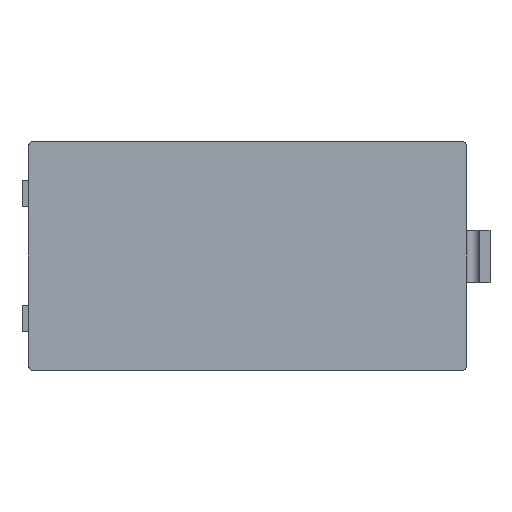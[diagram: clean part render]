
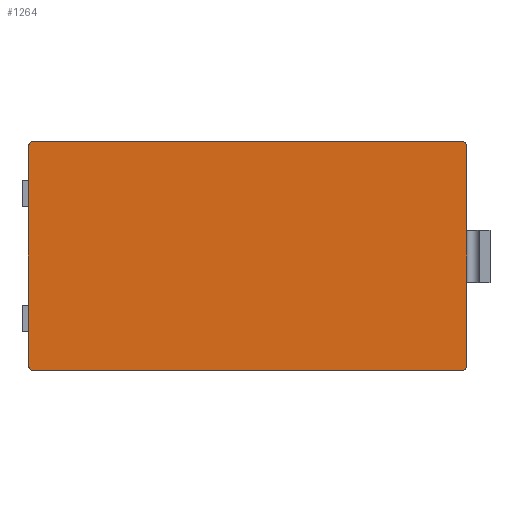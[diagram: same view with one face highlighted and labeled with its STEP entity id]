
A CAD part, front view. The second image highlights one B-rep face of the part: STEP entity #1264.
In plain terms, the highlighted planar face has unit normal (0, -1, 0).
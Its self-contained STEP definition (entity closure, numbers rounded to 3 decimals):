
#4 = AXIS2_PLACEMENT_3D ( 'NONE', #1541, #664, #1701 ) ;
#22 = EDGE_CURVE ( 'NONE', #815, #1073, #409, .T. ) ;
#127 = LINE ( 'NONE', #1207, #2135 ) ;
#160 = DIRECTION ( 'NONE',  ( 0., 0., -1. ) ) ;
#176 = VECTOR ( 'NONE', #2197, 1000. ) ;
#249 = EDGE_CURVE ( 'NONE', #1516, #1654, #1413, .T. ) ;
#316 = CARTESIAN_POINT ( 'NONE',  ( 1., 0., 0. ) ) ;
#336 = ORIENTED_EDGE ( 'NONE', *, *, #2136, .F. ) ;
#364 = DIRECTION ( 'NONE',  ( 0., -1., 0. ) ) ;
#370 = CARTESIAN_POINT ( 'NONE',  ( 0., 0., -1. ) ) ;
#409 = LINE ( 'NONE', #2014, #176 ) ;
#415 = CIRCLE ( 'NONE', #4, 1. ) ;
#427 = VERTEX_POINT ( 'NONE', #1965 ) ;
#432 = CARTESIAN_POINT ( 'NONE',  ( 82.5, 0., 0. ) ) ;
#449 = DIRECTION ( 'NONE',  ( 1., 0., 0. ) ) ;
#538 = CARTESIAN_POINT ( 'NONE',  ( 82.5, 0., -43.6 ) ) ;
#559 = ORIENTED_EDGE ( 'NONE', *, *, #22, .F. ) ;
#575 = EDGE_CURVE ( 'NONE', #427, #1516, #1399, .T. ) ;
#628 = CARTESIAN_POINT ( 'NONE',  ( 83.5, 0., -42.6 ) ) ;
#664 = DIRECTION ( 'NONE',  ( 0., 1., 0. ) ) ;
#679 = EDGE_CURVE ( 'NONE', #1654, #1102, #127, .T. ) ;
#717 = DIRECTION ( 'NONE',  ( 0., 0., 1. ) ) ;
#815 = VERTEX_POINT ( 'NONE', #538 ) ;
#867 = VERTEX_POINT ( 'NONE', #1574 ) ;
#875 = PLANE ( 'NONE',  #2162 ) ;
#940 = CARTESIAN_POINT ( 'NONE',  ( 1., 0., -42.6 ) ) ;
#949 = FACE_OUTER_BOUND ( 'NONE', #1658, .T. ) ;
#952 = AXIS2_PLACEMENT_3D ( 'NONE', #2110, #1567, #1744 ) ;
#1043 = CARTESIAN_POINT ( 'NONE',  ( 82.5, 0., -42.6 ) ) ;
#1045 = ORIENTED_EDGE ( 'NONE', *, *, #2256, .F. ) ;
#1049 = AXIS2_PLACEMENT_3D ( 'NONE', #940, #1625, #1805 ) ;
#1073 = VERTEX_POINT ( 'NONE', #1466 ) ;
#1098 = CARTESIAN_POINT ( 'NONE',  ( 83.5, 0., -1. ) ) ;
#1102 = VERTEX_POINT ( 'NONE', #628 ) ;
#1118 = LINE ( 'NONE', #370, #1890 ) ;
#1207 = CARTESIAN_POINT ( 'NONE',  ( 83.5, 0., -1. ) ) ;
#1213 = DIRECTION ( 'NONE',  ( 0., 0., -1. ) ) ;
#1216 = ORIENTED_EDGE ( 'NONE', *, *, #1783, .F. ) ;
#1261 = EDGE_CURVE ( 'NONE', #867, #1304, #1118, .T. ) ;
#1264 = ADVANCED_FACE ( 'NONE', ( #949 ), #875, .T. ) ;
#1304 = VERTEX_POINT ( 'NONE', #2134 ) ;
#1307 = CIRCLE ( 'NONE', #1989, 1. ) ;
#1319 = DIRECTION ( 'NONE',  ( 0., 0., -1. ) ) ;
#1399 = LINE ( 'NONE', #316, #1480 ) ;
#1413 = CIRCLE ( 'NONE', #952, 1. ) ;
#1466 = CARTESIAN_POINT ( 'NONE',  ( 1., 0., -43.6 ) ) ;
#1480 = VECTOR ( 'NONE', #449, 1000. ) ;
#1516 = VERTEX_POINT ( 'NONE', #432 ) ;
#1541 = CARTESIAN_POINT ( 'NONE',  ( 82.5, 0., -42.6 ) ) ;
#1567 = DIRECTION ( 'NONE',  ( 0., 1., 0. ) ) ;
#1573 = ORIENTED_EDGE ( 'NONE', *, *, #575, .F. ) ;
#1574 = CARTESIAN_POINT ( 'NONE',  ( 0., 0., -42.6 ) ) ;
#1625 = DIRECTION ( 'NONE',  ( 0., 1., 0. ) ) ;
#1651 = ORIENTED_EDGE ( 'NONE', *, *, #1261, .F. ) ;
#1654 = VERTEX_POINT ( 'NONE', #1098 ) ;
#1658 = EDGE_LOOP ( 'NONE', ( #1216, #2253, #1680, #1573, #1045, #1651, #336, #559 ) ) ;
#1669 = DIRECTION ( 'NONE',  ( 0., 1., 0. ) ) ;
#1675 = CARTESIAN_POINT ( 'NONE',  ( 1., 0., -1. ) ) ;
#1680 = ORIENTED_EDGE ( 'NONE', *, *, #249, .F. ) ;
#1701 = DIRECTION ( 'NONE',  ( 0., 0., -1. ) ) ;
#1744 = DIRECTION ( 'NONE',  ( 0., 0., 1. ) ) ;
#1783 = EDGE_CURVE ( 'NONE', #1102, #815, #415, .T. ) ;
#1805 = DIRECTION ( 'NONE',  ( 0., 0., -1. ) ) ;
#1890 = VECTOR ( 'NONE', #717, 1000. ) ;
#1965 = CARTESIAN_POINT ( 'NONE',  ( 1., 0., 0. ) ) ;
#1989 = AXIS2_PLACEMENT_3D ( 'NONE', #1675, #1669, #1319 ) ;
#2014 = CARTESIAN_POINT ( 'NONE',  ( 1., 0., -43.6 ) ) ;
#2105 = CIRCLE ( 'NONE', #1049, 1. ) ;
#2110 = CARTESIAN_POINT ( 'NONE',  ( 82.5, 0., -1. ) ) ;
#2134 = CARTESIAN_POINT ( 'NONE',  ( 0., 0., -1. ) ) ;
#2135 = VECTOR ( 'NONE', #160, 1000. ) ;
#2136 = EDGE_CURVE ( 'NONE', #1073, #867, #2105, .T. ) ;
#2162 = AXIS2_PLACEMENT_3D ( 'NONE', #1043, #364, #1213 ) ;
#2197 = DIRECTION ( 'NONE',  ( -1., 0., 0. ) ) ;
#2253 = ORIENTED_EDGE ( 'NONE', *, *, #679, .F. ) ;
#2256 = EDGE_CURVE ( 'NONE', #1304, #427, #1307, .T. ) ;
